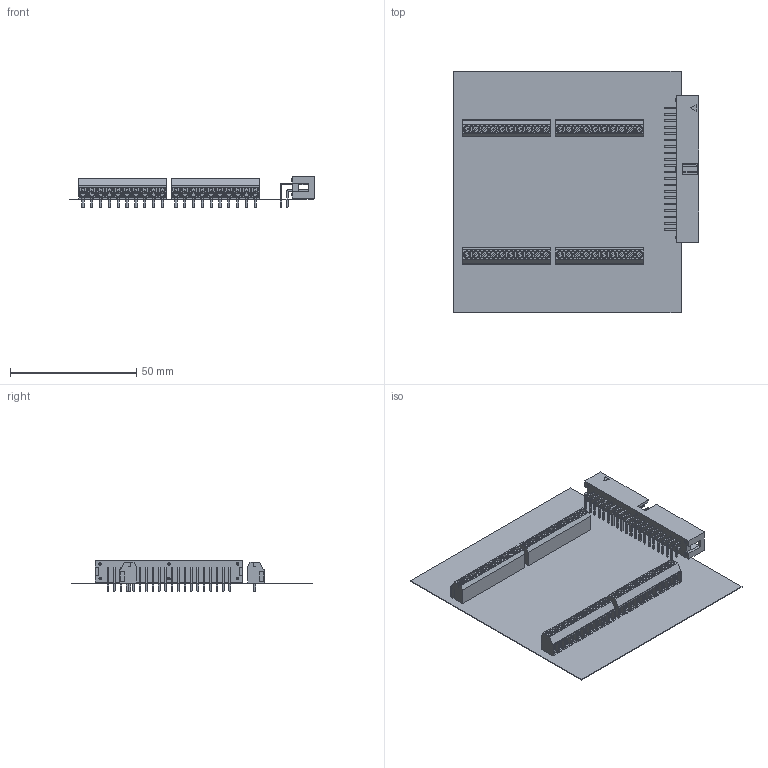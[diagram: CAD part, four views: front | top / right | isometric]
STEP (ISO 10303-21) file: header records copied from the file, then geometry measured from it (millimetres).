
FILE_DESCRIPTION(('Open CASCADE Model'),'2;1');
FILE_NAME('Open CASCADE Shape Model','2024-11-10T12:04:49',('Author'),( 'Open CASCADE'),'Open CASCADE STEP processor 7.5','Open CASCADE 7.5' ,'Unknown');
FILE_SCHEMA(('AUTOMOTIVE_DESIGN { 1 0 10303 214 1 1 1 1 }'));
Length unit declared in the file: millimetre
Products named in the file (10): PCB; Board; Open CASCADE STEP translator 7.5 7.1.1; J5; ED555-10DS; J4; J3; J2; J1; SBH11-PBPC-D20-RA-BK--3DModel-STEP-269445
Assembly tree (12 placements, depth 3):
  PCB
    Board
      Open CASCADE STEP translator 7.5 7.1.1
    J5
      ED555-10DS
    J4
      ED555-10DS
    J3
      ED555-10DS
    J2
      ED555-10DS
    J1
      SBH11-PBPC-D20-RA-BK--3DModel-STEP-269445
Bounding box: 97.1 x 95.89 x 12.59 mm (x, y, z)
Volume: 10215.5 mm3; surface area: 30840.5 mm2
Topology: 46 solids, 46 shells, 3561 faces, 9630 edges, 6144 vertices
Faces by surface type: plane 2354, cylinder 835, torus 200, cone 160, revolution 12
Full cylindrical faces by diameter (mm): 0.6 x72, 0.9 x40, 2 x40
Entity records: 49039 total; most frequent: CARTESIAN_POINT 9948, ORIENTED_EDGE 8166, DIRECTION 7719, EDGE_CURVE 4083, LINE 2977, VECTOR 2977, VERTEX_POINT 2574, AXIS2_PLACEMENT_3D 2365
